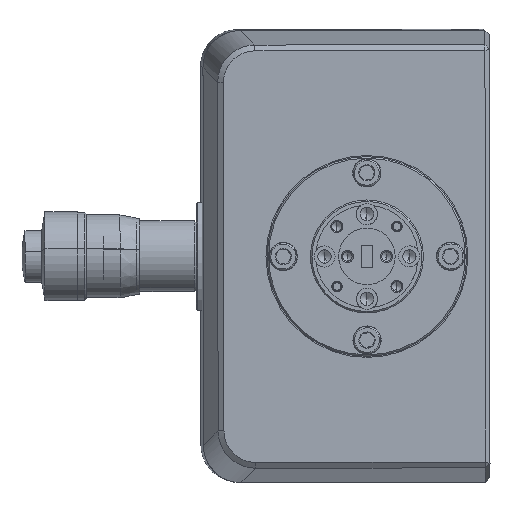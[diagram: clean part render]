
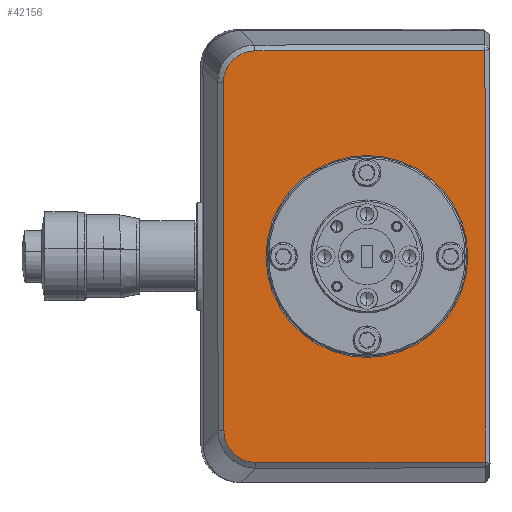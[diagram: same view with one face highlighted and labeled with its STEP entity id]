
A CAD part, left-side view. The second image highlights one B-rep face of the part: STEP entity #42156.
In plain terms, the highlighted planar face has unit normal (-1, -0.002, -0.001).
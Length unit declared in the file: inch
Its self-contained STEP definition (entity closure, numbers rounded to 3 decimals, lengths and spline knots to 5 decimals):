
#347 = DIRECTION ( 'NONE',  ( 0.001, -0.001, -1. ) ) ;
#833 = VERTEX_POINT ( 'NONE', #78125 ) ;
#848 = DIRECTION ( 'NONE',  ( -0.001, 0.001, 1. ) ) ;
#4208 = EDGE_LOOP ( 'NONE', ( #25039, #18050, #19090, #22978, #41945, #23571 ) ) ;
#4382 = CARTESIAN_POINT ( 'NONE',  ( -3.34513, -6.67076, -0.10827 ) ) ;
#4853 = DIRECTION ( 'NONE',  ( -0.001, 0.001, 1. ) ) ;
#6087 = DIRECTION ( 'NONE',  ( -0.002, 1., -0.001 ) ) ;
#8441 = DIRECTION ( 'NONE',  ( 1., 0.002, 0.001 ) ) ;
#8596 = CARTESIAN_POINT ( 'NONE',  ( -3.34494, -6.84656, 0.04589 ) ) ;
#8758 = VECTOR ( 'NONE', #4853, 39.37008 ) ;
#9043 = EDGE_LOOP ( 'NONE', ( #79202, #18802 ) ) ;
#9431 = EDGE_CURVE ( 'NONE', #58816, #833, #23698, .T. ) ;
#10398 = VERTEX_POINT ( 'NONE', #37090 ) ;
#14916 = CARTESIAN_POINT ( 'NONE',  ( -3.34381, -6.69476, -2.58101 ) ) ;
#16093 = CIRCLE ( 'NONE', #35523, 0.67 ) ;
#16551 = CARTESIAN_POINT ( 'NONE',  ( -3.34302, -7.61697, -1.31819 ) ) ;
#17486 = VECTOR ( 'NONE', #6087, 39.37008 ) ;
#18050 = ORIENTED_EDGE ( 'NONE', *, *, #9431, .T. ) ;
#18121 = CARTESIAN_POINT ( 'NONE',  ( -3.34498, -6.81907, 0.04042 ) ) ;
#18802 = ORIENTED_EDGE ( 'NONE', *, *, #88202, .F. ) ;
#19090 = ORIENTED_EDGE ( 'NONE', *, *, #23066, .T. ) ;
#19590 = LINE ( 'NONE', #81480, #8758 ) ;
#21708 = B_SPLINE_CURVE_WITH_KNOTS ( 'NONE', 3,
 ( #53043, #69250, #31166, #14916, #60217, #37824, #75838, #92027, #91013, #99102 ),
 .UNSPECIFIED., .F., .F.,
 ( 4, 2, 2, 2, 4 ),
 ( 0., 0.25, 0.5, 0.75, 1. ),
 .UNSPECIFIED. ) ;
#22978 = ORIENTED_EDGE ( 'NONE', *, *, #52969, .T. ) ;
#23066 = EDGE_CURVE ( 'NONE', #833, #88761, #19590, .T. ) ;
#23571 = ORIENTED_EDGE ( 'NONE', *, *, #60395, .T. ) ;
#23698 = LINE ( 'NONE', #83703, #40877 ) ;
#24698 = DIRECTION ( 'NONE',  ( -1., -0.002, -0.001 ) ) ;
#25039 = ORIENTED_EDGE ( 'NONE', *, *, #31523, .T. ) ;
#25194 = CARTESIAN_POINT ( 'NONE',  ( -3.34302, -7.61697, -1.31819 ) ) ;
#29365 = LINE ( 'NONE', #91197, #36211 ) ;
#29511 = CARTESIAN_POINT ( 'NONE',  ( -3.34267, -7.61784, -1.98819 ) ) ;
#30288 = AXIS2_PLACEMENT_3D ( 'NONE', #76980, #8441, #347 ) ;
#31166 = CARTESIAN_POINT ( 'NONE',  ( -3.34387, -6.6739, -2.53056 ) ) ;
#31523 = EDGE_CURVE ( 'NONE', #90644, #58816, #21708, .T. ) ;
#31739 = DIRECTION ( 'NONE',  ( -1., -0.002, -0.001 ) ) ;
#31879 = EDGE_CURVE ( 'NONE', #42152, #62534, #73681, .T. ) ;
#32852 = FACE_BOUND ( 'NONE', #9043, .T. ) ;
#34362 = CARTESIAN_POINT ( 'NONE',  ( -3.34489, -6.87405, 0.04592 ) ) ;
#35259 = AXIS2_PLACEMENT_3D ( 'NONE', #25194, #24698, #848 ) ;
#35523 = AXIS2_PLACEMENT_3D ( 'NONE', #16551, #31739, #87010 ) ;
#36211 = VECTOR ( 'NONE', #74526, 39.37008 ) ;
#37090 = CARTESIAN_POINT ( 'NONE',  ( -3.34337, -7.6161, -0.64819 ) ) ;
#37824 = CARTESIAN_POINT ( 'NONE',  ( -3.34369, -6.74883, -2.64268 ) ) ;
#38985 = CARTESIAN_POINT ( 'NONE',  ( -3.34489, -6.87405, 0.04592 ) ) ;
#40877 = VECTOR ( 'NONE', #60493, 39.37008 ) ;
#41525 = CARTESIAN_POINT ( 'NONE',  ( -3.34511, -6.6654, -0.16327 ) ) ;
#41945 = ORIENTED_EDGE ( 'NONE', *, *, #31879, .T. ) ;
#42152 = VERTEX_POINT ( 'NONE', #38985 ) ;
#42156 = ADVANCED_FACE ( 'NONE', ( #78517, #32852 ), #62329, .F. ) ;
#49775 = CARTESIAN_POINT ( 'NONE',  ( -3.34511, -6.6654, -0.16327 ) ) ;
#52969 = EDGE_CURVE ( 'NONE', #88761, #42152, #83216, .T. ) ;
#53043 = CARTESIAN_POINT ( 'NONE',  ( -3.34391, -6.6684, -2.47558 ) ) ;
#57503 = CARTESIAN_POINT ( 'NONE',  ( -3.34251, -8.4002, 0.0479 ) ) ;
#57778 = CARTESIAN_POINT ( 'NONE',  ( -3.34507, -6.74541, 0.00403 ) ) ;
#58816 = VERTEX_POINT ( 'NONE', #82256 ) ;
#58989 = CARTESIAN_POINT ( 'NONE',  ( -3.34394, -7.4802, 0.04671 ) ) ;
#60217 = CARTESIAN_POINT ( 'NONE',  ( -3.34377, -6.71028, -2.60422 ) ) ;
#60395 = EDGE_CURVE ( 'NONE', #62534, #90644, #29365, .T. ) ;
#60493 = DIRECTION ( 'NONE',  ( 0.002, -1., 0.001 ) ) ;
#62329 = PLANE ( 'NONE',  #30288 ) ;
#62534 = VERTEX_POINT ( 'NONE', #49775 ) ;
#63971 = CARTESIAN_POINT ( 'NONE',  ( -3.34391, -6.6684, -2.47558 ) ) ;
#69250 = CARTESIAN_POINT ( 'NONE',  ( -3.34389, -6.66843, -2.50307 ) ) ;
#70570 = CARTESIAN_POINT ( 'NONE',  ( -3.34512, -6.6915, -0.05777 ) ) ;
#73400 = CARTESIAN_POINT ( 'NONE',  ( -3.34511, -6.70695, -0.03451 ) ) ;
#73681 = B_SPLINE_CURVE_WITH_KNOTS ( 'NONE', 3,
 ( #34362, #8596, #18121, #96160, #57778, #73400, #70570, #4382, #80517, #41525 ),
 .UNSPECIFIED., .F., .F.,
 ( 4, 2, 2, 2, 4 ),
 ( 0., 0.25, 0.5, 0.75, 1. ),
 .UNSPECIFIED. ) ;
#74526 = DIRECTION ( 'NONE',  ( 0.001, -0.001, -1. ) ) ;
#75838 = CARTESIAN_POINT ( 'NONE',  ( -3.34365, -6.77209, -2.65813 ) ) ;
#76720 = VERTEX_POINT ( 'NONE', #29511 ) ;
#76980 = CARTESIAN_POINT ( 'NONE',  ( -3.34323, -7.48197, -1.31837 ) ) ;
#78125 = CARTESIAN_POINT ( 'NONE',  ( -3.34109, -8.40374, -2.68225 ) ) ;
#78517 = FACE_OUTER_BOUND ( 'NONE', #4208, .T. ) ;
#79202 = ORIENTED_EDGE ( 'NONE', *, *, #100067, .F. ) ;
#80517 = CARTESIAN_POINT ( 'NONE',  ( -3.34512, -6.66536, -0.13572 ) ) ;
#81480 = CARTESIAN_POINT ( 'NONE',  ( -3.3418, -8.40197, -1.31717 ) ) ;
#82256 = CARTESIAN_POINT ( 'NONE',  ( -3.34347, -6.87759, -2.68423 ) ) ;
#83216 = LINE ( 'NONE', #58989, #17486 ) ;
#83703 = CARTESIAN_POINT ( 'NONE',  ( -3.34252, -7.48374, -2.68344 ) ) ;
#87010 = DIRECTION ( 'NONE',  ( -0.001, 0.001, 1. ) ) ;
#87070 = CIRCLE ( 'NONE', #35259, 0.67 ) ;
#88202 = EDGE_CURVE ( 'NONE', #76720, #10398, #87070, .T. ) ;
#88761 = VERTEX_POINT ( 'NONE', #57503 ) ;
#90644 = VERTEX_POINT ( 'NONE', #63971 ) ;
#91013 = CARTESIAN_POINT ( 'NONE',  ( -3.34351, -6.85004, -2.68427 ) ) ;
#91197 = CARTESIAN_POINT ( 'NONE',  ( -3.34451, -6.6669, -1.31942 ) ) ;
#92027 = CARTESIAN_POINT ( 'NONE',  ( -3.34356, -6.82259, -2.67887 ) ) ;
#96160 = CARTESIAN_POINT ( 'NONE',  ( -3.34504, -6.76862, 0.01956 ) ) ;
#99102 = CARTESIAN_POINT ( 'NONE',  ( -3.34347, -6.87759, -2.68423 ) ) ;
#100067 = EDGE_CURVE ( 'NONE', #10398, #76720, #16093, .T. ) ;
